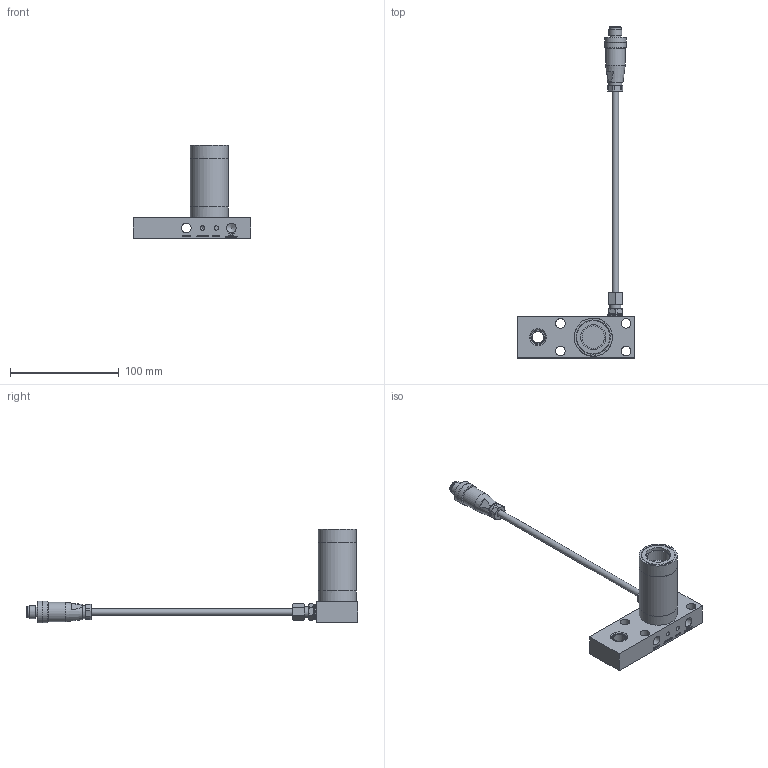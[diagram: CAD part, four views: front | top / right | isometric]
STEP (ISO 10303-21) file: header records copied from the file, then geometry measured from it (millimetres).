
FILE_DESCRIPTION(/* description */ ('ASSEMBLY,BODY,NUTWELD,VFSXJR3LVDT,NID.ipt'),/* implementation_level */ '2;1');
FILE_NAME(/* name */ 'C:\PTC\WGM\WFS\Windchill\Workspace\ASSY,VF,LVDT,SXJR3,TL,S,NHP,N_CUSTOMER.stp',/* time_stamp */ '2015-06-18T14:18:58-04:00',/* author */ ('Simon.Britton'),/* organization */ (''),/* preprocessor_version */ 'ST-DEVELOPER v15.2',/* originating_system */ 'Autodesk Inventor 2014',/* authorisation */ '');
FILE_SCHEMA (('AUTOMOTIVE_DESIGN { 1 0 10303 214 3 1 1 }'));
Length unit declared in the file: millimetre
Products named in the file (5): ASSEMBLY,BODY,NUTWELD,VFSXJR3LVDT,NID; TUBE,PLASTIC,CLEAR,4MMIDX6MMOD_0000473953.ipt ; CONNECTOR,  MALE, STR, 5-POS,  M12_0000523820; FIT,BRASS,STR,COMPRESS,6MMTUBE,1_8_BSPP_0000766911; ASSY,VF,LVDT,SXJR3,TL,S,NHP,N_CUSTOMER
Bounding box: 107.95 x 305.03 x 86.2 mm (x, y, z)
Volume: 130706.9 mm3; surface area: 55842.3 mm2
Topology: 4 solids, 8 shells, 1093 faces, 2829 edges, 1872 vertices
Faces by surface type: plane 704, bspline 240, cylinder 85, cone 53, torus 6, sphere 5
Full cylindrical faces by diameter (mm): 0.217 x1, 1 x5, 3 x1, 3.962 x4, 4 x2, 6 x2, 7 x1, 8.3 x1, 8.731 x4, 8.738 x4, 9.73 x1, 10 x2, 10.2 x1, 10.5 x1, 10.592 x1, 12 x2, 12.7 x1, 14 x1, 16 x1, 18 x1, 20 x1, 20.05 x1, 20.637 x2, 23.019 x1, 28.829 x5, 31.496 x4, 31.623 x3, 34.925 x2, 35.179 x1
Entity records: 35272 total; most frequent: CARTESIAN_POINT 9532, ORIENTED_EDGE 5390, DIRECTION 4108, EDGE_CURVE 2693, LINE 1914, VECTOR 1914, VERTEX_POINT 1827, EDGE_LOOP 1328
